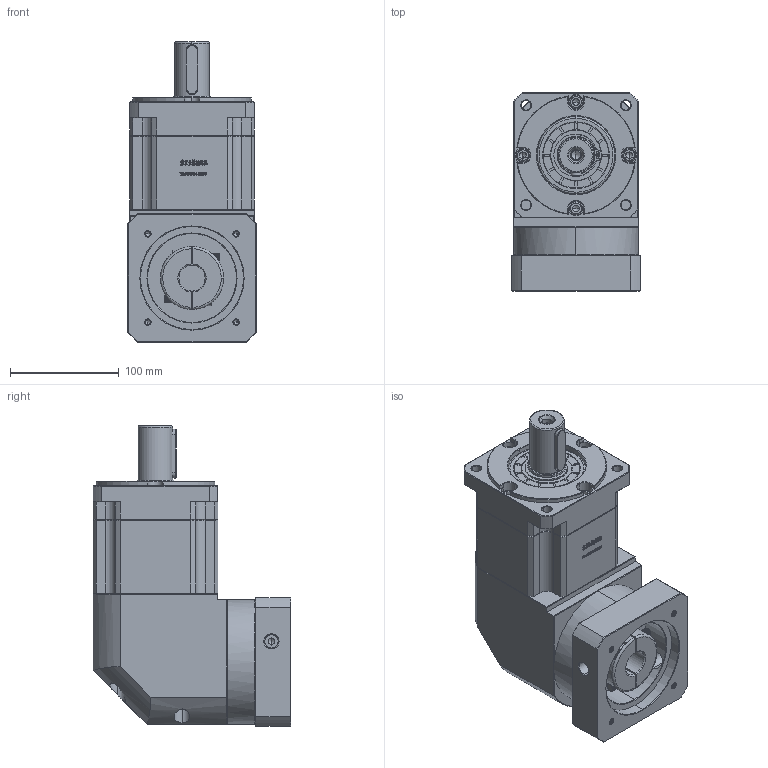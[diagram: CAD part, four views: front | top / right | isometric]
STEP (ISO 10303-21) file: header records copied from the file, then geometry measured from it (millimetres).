
FILE_DESCRIPTION (( 'STEP AP214' ), '1' );
FILE_NAME ('ZBR115A-D32-L2-24-95-115-M6.step', '2023-03-03T05:02:39', ( '' ), ( 'Microsoft' ), 'SwSTEP 2.0', 'SolidWorks 2016', '' );
FILE_SCHEMA (( 'AUTOMOTIVE_DESIGN' ));
Length unit declared in the file: millimetre
Products named in the file (1): ZBR115A-D32-L2-24-95-115-M6
Bounding box: 118 x 182.4 x 276.5 mm (x, y, z)
Volume: 3204540.6 mm3; surface area: 251633.5 mm2
Topology: 6 solids, 6 shells, 2969 faces, 7868 edges, 5044 vertices
Faces by surface type: plane 1558, bspline 610, cylinder 424, cone 369, torus 8
Entity records: 162291 total; most frequent: CARTESIAN_POINT 60823, ORIENTED_EDGE 15676, DIRECTION 11872, EDGE_CURVE 7838, LINE 5286, VECTOR 5286, VERTEX_POINT 5044, AXIS2_PLACEMENT_3D 3293
